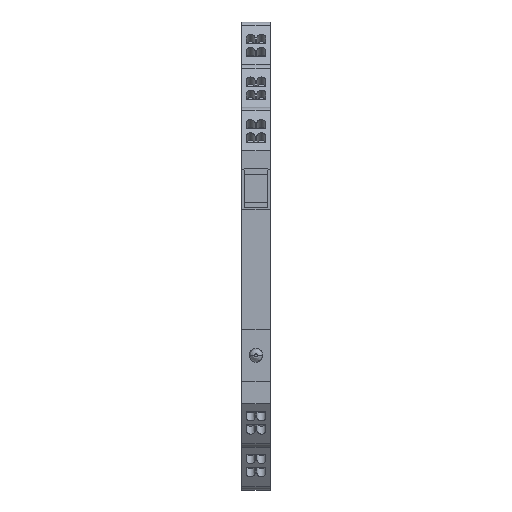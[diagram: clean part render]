
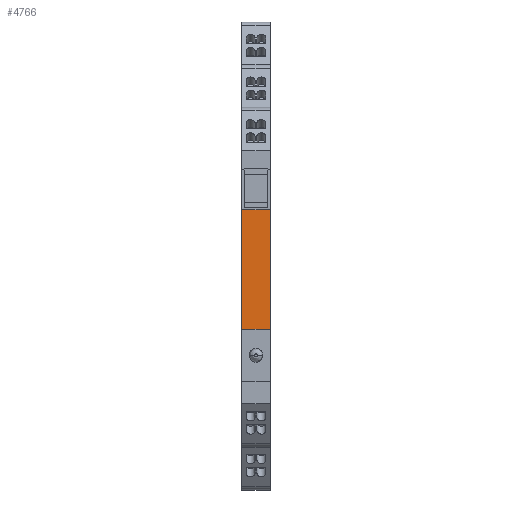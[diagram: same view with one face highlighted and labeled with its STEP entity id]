
A CAD part, front view. The second image highlights one B-rep face of the part: STEP entity #4766.
In plain terms, the highlighted planar face has unit normal (0, -1, 0).
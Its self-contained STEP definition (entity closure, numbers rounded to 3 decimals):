
#4727=CARTESIAN_POINT('POINT289',(3.1,-57.7,
   -14.1));
#4728=VERTEX_POINT('VERTEX289',#4727);
#4729=CARTESIAN_POINT('POINT290',(3.1,-57.7,
   12.2));
#4730=VERTEX_POINT('VERTEX290',#4729);
#4731=CARTESIAN_POINT('POS569',(3.1,-57.7,
   12.2));
#4732=DIRECTION('DIR777',(0.,0.,1.));
#4733=VECTOR('VEC361',#4732,1.);
#4734=LINE('STRAIGHT361',#4731,#4733);
#4735=EDGE_CURVE('EDGE417',#4728,#4730,#4734,.T.);
#4736=ORIENTED_EDGE('COEDGE753',*,*,#4735,.T.);
#4737=CARTESIAN_POINT('POINT291',(-3.1,-57.7,
   12.2));
#4738=VERTEX_POINT('VERTEX291',#4737);
#4739=CARTESIAN_POINT('POS570',(-3.1,-57.7,
   12.2));
#4740=DIRECTION('DIR778',(1.,0.,0.));
#4741=VECTOR('VEC362',#4740,1.);
#4742=LINE('STRAIGHT362',#4739,#4741);
#4743=EDGE_CURVE('EDGE418',#4738,#4730,#4742,.T.);
#4744=ORIENTED_EDGE('COEDGE754',*,*,#4743,.F.);
#4745=CARTESIAN_POINT('POINT292',(-3.1,-57.7,
   -14.1));
#4746=VERTEX_POINT('VERTEX292',#4745);
#4747=CARTESIAN_POINT('POS571',(-3.1,-57.7,
   12.2));
#4748=DIRECTION('DIR779',(0.,0.,-1.));
#4749=VECTOR('VEC363',#4748,1.);
#4750=LINE('STRAIGHT363',#4747,#4749);
#4751=EDGE_CURVE('EDGE419',#4738,#4746,#4750,.T.);
#4752=ORIENTED_EDGE('COEDGE755',*,*,#4751,.T.);
#4753=CARTESIAN_POINT('POS572',(-3.1,-57.7,
   -14.1));
#4754=DIRECTION('DIR780',(1.,0.,0.));
#4755=VECTOR('VEC364',#4754,1.);
#4756=LINE('STRAIGHT364',#4753,#4755);
#4757=EDGE_CURVE('EDGE420',#4746,#4728,#4756,.T.);
#4758=ORIENTED_EDGE('COEDGE756',*,*,#4757,.T.);
#4759=EDGE_LOOP('NONE',(#4736,#4744,#4752,#4758));
#4760=FACE_BOUND('LOOP1',#4759,.T.);
#4761=CARTESIAN_POINT('POS573',(-3.1,-57.7,
   -14.1));
#4762=DIRECTION('DIR781',(0.,-1.,0.));
#4763=DIRECTION('DIR782',(1.,0.,0.));
#4764=AXIS2_PLACEMENT_3D('AXIS209',#4761,#4762,#4763);
#4765=PLANE('PLANE133',#4764);
#4766=ADVANCED_FACE('FACE155',(#4760),#4765,.T.);
